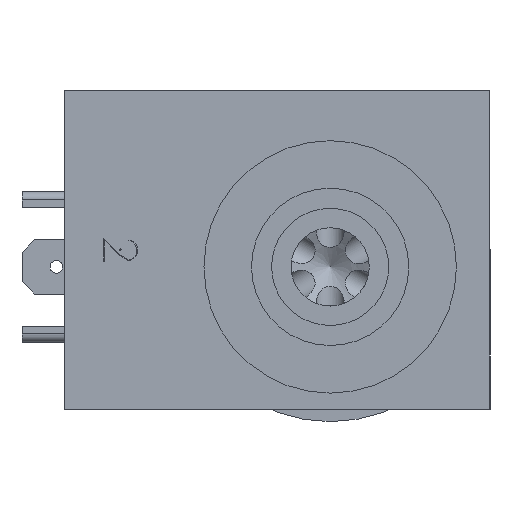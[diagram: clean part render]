
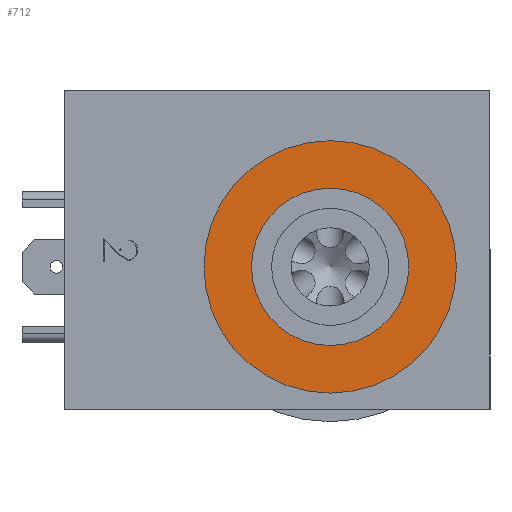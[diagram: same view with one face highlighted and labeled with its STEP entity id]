
A CAD part, front view. The second image highlights one B-rep face of the part: STEP entity #712.
In plain terms, the highlighted planar face has unit normal (0, -1, 0) as drawn and (-1, 0, 0) by its records, which use the part's own axes.
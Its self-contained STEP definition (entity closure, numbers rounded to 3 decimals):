
#712 = ADVANCED_FACE( '', ( #1672, #1673 ), #1674, .F. );
#1672 = FACE_BOUND( '', #3065, .T. );
#1673 = FACE_OUTER_BOUND( '', #3066, .T. );
#1674 = PLANE( '', #3067 );
#3065 = EDGE_LOOP( '', ( #4571 ) );
#3066 = EDGE_LOOP( '', ( #4572 ) );
#3067 = AXIS2_PLACEMENT_3D( '', #4573, #4574, #4575 );
#4571 = ORIENTED_EDGE( '', *, *, #8007, .T. );
#4572 = ORIENTED_EDGE( '', *, *, #8008, .T. );
#4573 = CARTESIAN_POINT( '', ( -27., 6.3, 21.1 ) );
#4574 = DIRECTION( '', ( 1., 0., 0. ) );
#4575 = DIRECTION( '', ( 0., 1., 0. ) );
#8007 = EDGE_CURVE( '', #9469, #9469, #9470, .T. );
#8008 = EDGE_CURVE( '', #9471, #9471, #9472, .T. );
#9469 = VERTEX_POINT( '', #11710 );
#9470 = CIRCLE( '', #11711, 9.4 );
#9471 = VERTEX_POINT( '', #11712 );
#9472 = CIRCLE( '', #11713, 15.085 );
#11710 = CARTESIAN_POINT( '', ( -27., -3.1, 21.1 ) );
#11711 = AXIS2_PLACEMENT_3D( '', #15430, #15431, #15432 );
#11712 = CARTESIAN_POINT( '', ( -27., -8.785, 21.1 ) );
#11713 = AXIS2_PLACEMENT_3D( '', #15433, #15434, #15435 );
#15430 = CARTESIAN_POINT( '', ( -27., 6.3, 21.1 ) );
#15431 = DIRECTION( '', ( 1., 0., 0. ) );
#15432 = DIRECTION( '', ( 0., -1., 0. ) );
#15433 = CARTESIAN_POINT( '', ( -27., 6.3, 21.1 ) );
#15434 = DIRECTION( '', ( -1., 0., 0. ) );
#15435 = DIRECTION( '', ( 0., -1., 0. ) );
